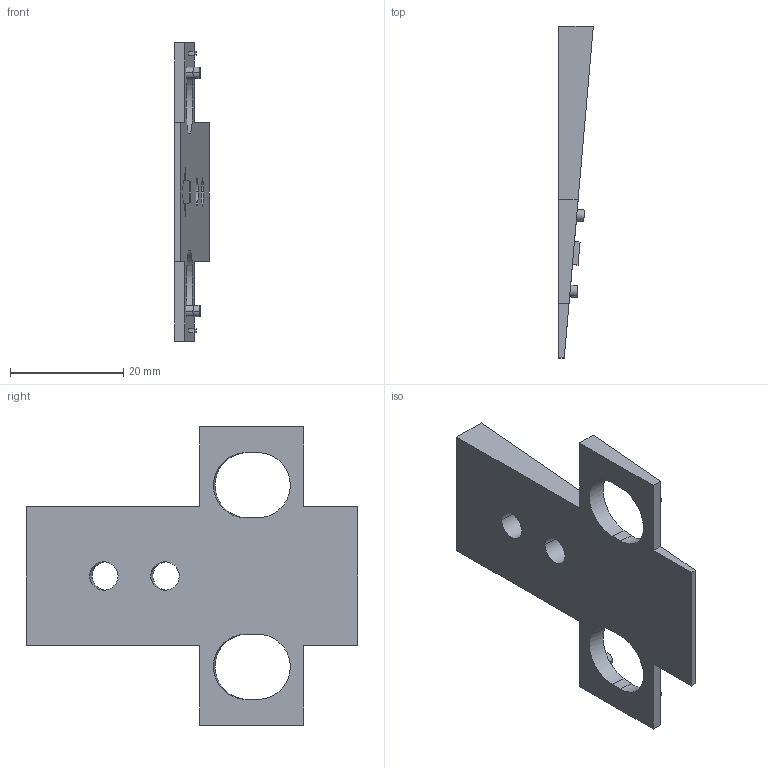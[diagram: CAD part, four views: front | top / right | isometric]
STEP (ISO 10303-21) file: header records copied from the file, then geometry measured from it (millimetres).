
FILE_DESCRIPTION (( 'STEP AP214' ), '1' );
FILE_NAME ('Kreuz Winkelkeil +5Grad_136631.STEP', '2010-11-18T09:34:43', ( 'grass' ), ( '' ), 'SwSTEP 2.0', 'SolidWorks 2010', '' );
FILE_SCHEMA (( 'AUTOMOTIVE_DESIGN' ));
Length unit declared in the file: millimetre
Products named in the file (1): Kreuz Winkelkeil +5Grad_136631
Bounding box: 6.1 x 58.5 x 52.6 mm (x, y, z)
Volume: 5587.5 mm3; surface area: 4467.2 mm2
Topology: 1 solids, 1 shells, 58 faces, 147 edges, 98 vertices
Faces by surface type: plane 40, cylinder 18
Entity records: 1787 total; most frequent: CARTESIAN_POINT 334, ORIENTED_EDGE 294, DIRECTION 281, EDGE_CURVE 147, LINE 111, VECTOR 111, VERTEX_POINT 98, AXIS2_PLACEMENT_3D 85
